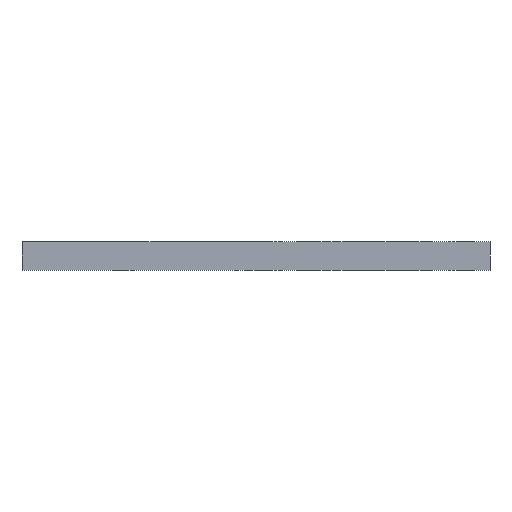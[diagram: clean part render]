
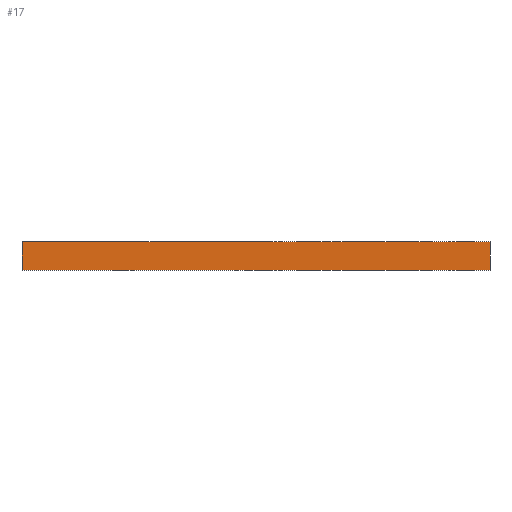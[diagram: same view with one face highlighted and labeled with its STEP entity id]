
A CAD part, left-side view. The second image highlights one B-rep face of the part: STEP entity #17.
In plain terms, the highlighted planar face has unit normal (-1, 0, 0).
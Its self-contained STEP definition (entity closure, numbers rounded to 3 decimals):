
#17 = ADVANCED_FACE('',(#18),#32,.F.);
#18 = FACE_BOUND('',#19,.F.);
#19 = EDGE_LOOP('',(#20,#55,#83,#111));
#20 = ORIENTED_EDGE('',*,*,#21,.F.);
#21 = EDGE_CURVE('',#22,#24,#26,.T.);
#22 = VERTEX_POINT('',#23);
#23 = CARTESIAN_POINT('',(45.,39.,190.));
#24 = VERTEX_POINT('',#25);
#25 = CARTESIAN_POINT('',(45.,39.,196.));
#26 = SURFACE_CURVE('',#27,(#31,#43),.PCURVE_S1.);
#27 = LINE('',#28,#29);
#28 = CARTESIAN_POINT('',(45.,39.,190.));
#29 = VECTOR('',#30,1.);
#30 = DIRECTION('',(0.,0.,1.));
#31 = PCURVE('',#32,#37);
#32 = PLANE('',#33);
#33 = AXIS2_PLACEMENT_3D('',#34,#35,#36);
#34 = CARTESIAN_POINT('',(45.,39.,190.));
#35 = DIRECTION('',(1.,0.,0.));
#36 = DIRECTION('',(0.,0.,1.));
#37 = DEFINITIONAL_REPRESENTATION('',(#38),#42);
#38 = LINE('',#39,#40);
#39 = CARTESIAN_POINT('',(0.,0.));
#40 = VECTOR('',#41,1.);
#41 = DIRECTION('',(1.,0.));
#42 = ( GEOMETRIC_REPRESENTATION_CONTEXT(2) 
PARAMETRIC_REPRESENTATION_CONTEXT() REPRESENTATION_CONTEXT('2D SPACE',''
  ) );
#43 = PCURVE('',#44,#49);
#44 = PLANE('',#45);
#45 = AXIS2_PLACEMENT_3D('',#46,#47,#48);
#46 = CARTESIAN_POINT('',(45.,39.,190.));
#47 = DIRECTION('',(0.,1.,0.));
#48 = DIRECTION('',(0.,0.,1.));
#49 = DEFINITIONAL_REPRESENTATION('',(#50),#54);
#50 = LINE('',#51,#52);
#51 = CARTESIAN_POINT('',(0.,0.));
#52 = VECTOR('',#53,1.);
#53 = DIRECTION('',(1.,0.));
#54 = ( GEOMETRIC_REPRESENTATION_CONTEXT(2) 
PARAMETRIC_REPRESENTATION_CONTEXT() REPRESENTATION_CONTEXT('2D SPACE',''
  ) );
#55 = ORIENTED_EDGE('',*,*,#56,.T.);
#56 = EDGE_CURVE('',#22,#57,#59,.T.);
#57 = VERTEX_POINT('',#58);
#58 = CARTESIAN_POINT('',(45.,136.,190.));
#59 = SURFACE_CURVE('',#60,(#64,#71),.PCURVE_S1.);
#60 = LINE('',#61,#62);
#61 = CARTESIAN_POINT('',(45.,39.,190.));
#62 = VECTOR('',#63,1.);
#63 = DIRECTION('',(0.,1.,0.));
#64 = PCURVE('',#32,#65);
#65 = DEFINITIONAL_REPRESENTATION('',(#66),#70);
#66 = LINE('',#67,#68);
#67 = CARTESIAN_POINT('',(0.,0.));
#68 = VECTOR('',#69,1.);
#69 = DIRECTION('',(0.,-1.));
#70 = ( GEOMETRIC_REPRESENTATION_CONTEXT(2) 
PARAMETRIC_REPRESENTATION_CONTEXT() REPRESENTATION_CONTEXT('2D SPACE',''
  ) );
#71 = PCURVE('',#72,#77);
#72 = PLANE('',#73);
#73 = AXIS2_PLACEMENT_3D('',#74,#75,#76);
#74 = CARTESIAN_POINT('',(45.,39.,190.));
#75 = DIRECTION('',(0.,0.,1.));
#76 = DIRECTION('',(1.,0.,0.));
#77 = DEFINITIONAL_REPRESENTATION('',(#78),#82);
#78 = LINE('',#79,#80);
#79 = CARTESIAN_POINT('',(0.,0.));
#80 = VECTOR('',#81,1.);
#81 = DIRECTION('',(0.,1.));
#82 = ( GEOMETRIC_REPRESENTATION_CONTEXT(2) 
PARAMETRIC_REPRESENTATION_CONTEXT() REPRESENTATION_CONTEXT('2D SPACE',''
  ) );
#83 = ORIENTED_EDGE('',*,*,#84,.T.);
#84 = EDGE_CURVE('',#57,#85,#87,.T.);
#85 = VERTEX_POINT('',#86);
#86 = CARTESIAN_POINT('',(45.,136.,196.));
#87 = SURFACE_CURVE('',#88,(#92,#99),.PCURVE_S1.);
#88 = LINE('',#89,#90);
#89 = CARTESIAN_POINT('',(45.,136.,190.));
#90 = VECTOR('',#91,1.);
#91 = DIRECTION('',(0.,0.,1.));
#92 = PCURVE('',#32,#93);
#93 = DEFINITIONAL_REPRESENTATION('',(#94),#98);
#94 = LINE('',#95,#96);
#95 = CARTESIAN_POINT('',(0.,-97.));
#96 = VECTOR('',#97,1.);
#97 = DIRECTION('',(1.,0.));
#98 = ( GEOMETRIC_REPRESENTATION_CONTEXT(2) 
PARAMETRIC_REPRESENTATION_CONTEXT() REPRESENTATION_CONTEXT('2D SPACE',''
  ) );
#99 = PCURVE('',#100,#105);
#100 = PLANE('',#101);
#101 = AXIS2_PLACEMENT_3D('',#102,#103,#104);
#102 = CARTESIAN_POINT('',(45.,136.,190.));
#103 = DIRECTION('',(0.,1.,0.));
#104 = DIRECTION('',(0.,0.,1.));
#105 = DEFINITIONAL_REPRESENTATION('',(#106),#110);
#106 = LINE('',#107,#108);
#107 = CARTESIAN_POINT('',(0.,0.));
#108 = VECTOR('',#109,1.);
#109 = DIRECTION('',(1.,0.));
#110 = ( GEOMETRIC_REPRESENTATION_CONTEXT(2) 
PARAMETRIC_REPRESENTATION_CONTEXT() REPRESENTATION_CONTEXT('2D SPACE',''
  ) );
#111 = ORIENTED_EDGE('',*,*,#112,.F.);
#112 = EDGE_CURVE('',#24,#85,#113,.T.);
#113 = SURFACE_CURVE('',#114,(#118,#125),.PCURVE_S1.);
#114 = LINE('',#115,#116);
#115 = CARTESIAN_POINT('',(45.,39.,196.));
#116 = VECTOR('',#117,1.);
#117 = DIRECTION('',(0.,1.,0.));
#118 = PCURVE('',#32,#119);
#119 = DEFINITIONAL_REPRESENTATION('',(#120),#124);
#120 = LINE('',#121,#122);
#121 = CARTESIAN_POINT('',(6.,0.));
#122 = VECTOR('',#123,1.);
#123 = DIRECTION('',(0.,-1.));
#124 = ( GEOMETRIC_REPRESENTATION_CONTEXT(2) 
PARAMETRIC_REPRESENTATION_CONTEXT() REPRESENTATION_CONTEXT('2D SPACE',''
  ) );
#125 = PCURVE('',#126,#131);
#126 = PLANE('',#127);
#127 = AXIS2_PLACEMENT_3D('',#128,#129,#130);
#128 = CARTESIAN_POINT('',(45.,39.,196.));
#129 = DIRECTION('',(0.,0.,1.));
#130 = DIRECTION('',(1.,0.,0.));
#131 = DEFINITIONAL_REPRESENTATION('',(#132),#136);
#132 = LINE('',#133,#134);
#133 = CARTESIAN_POINT('',(0.,0.));
#134 = VECTOR('',#135,1.);
#135 = DIRECTION('',(0.,1.));
#136 = ( GEOMETRIC_REPRESENTATION_CONTEXT(2) 
PARAMETRIC_REPRESENTATION_CONTEXT() REPRESENTATION_CONTEXT('2D SPACE',''
  ) );
